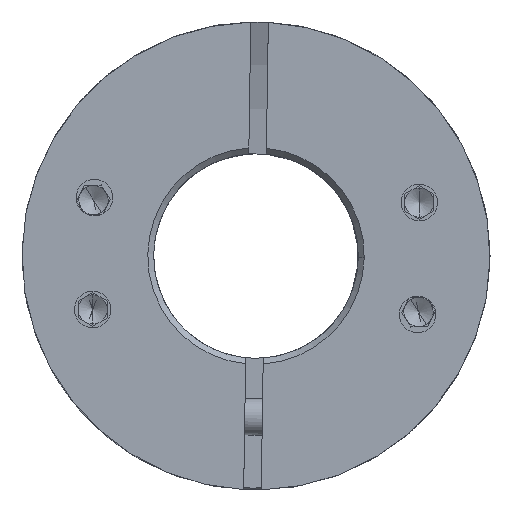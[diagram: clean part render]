
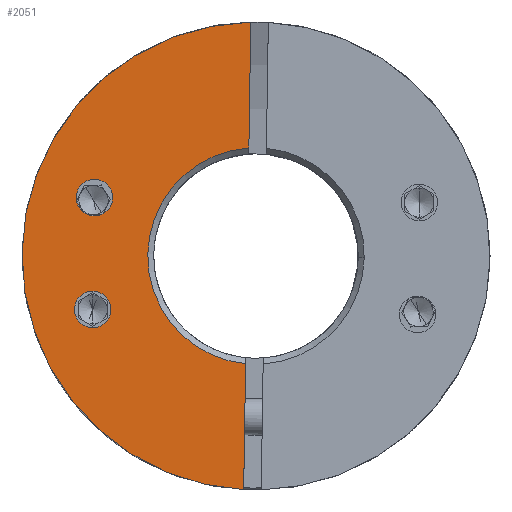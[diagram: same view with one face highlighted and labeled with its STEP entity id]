
A CAD part, front view. The second image highlights one B-rep face of the part: STEP entity #2051.
In plain terms, the highlighted planar face has unit normal (0, -1, 0).
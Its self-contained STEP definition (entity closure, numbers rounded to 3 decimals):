
#795 = DIRECTION ( 'NONE',  ( 0., -1., 0. ) ) ;
#888 = DIRECTION ( 'NONE',  ( 0., 1., 0. ) ) ;
#1651 = VERTEX_POINT ( 'NONE', #19426 ) ;
#1946 = ORIENTED_EDGE ( 'NONE', *, *, #21174, .T. ) ;
#1968 = AXIS2_PLACEMENT_3D ( 'NONE', #4872, #12221, #14330 ) ;
#2022 = ORIENTED_EDGE ( 'NONE', *, *, #21114, .F. ) ;
#2051 = ADVANCED_FACE ( 'NONE', ( #14132, #8588, #16477 ), #17653, .T. ) ;
#2538 = VECTOR ( 'NONE', #19247, 1000. ) ;
#2702 = CIRCLE ( 'NONE', #1968, 16. ) ;
#3126 = EDGE_LOOP ( 'NONE', ( #22249, #23533 ) ) ;
#3396 = CARTESIAN_POINT ( 'NONE',  ( -69.095, -19.411, -3.675 ) ) ;
#3413 = EDGE_LOOP ( 'NONE', ( #6623, #1946 ) ) ;
#3428 = VERTEX_POINT ( 'NONE', #24211 ) ;
#3859 = AXIS2_PLACEMENT_3D ( 'NONE', #20124, #23563, #21769 ) ;
#4462 = DIRECTION ( 'NONE',  ( 0., 1., 0. ) ) ;
#4472 = ORIENTED_EDGE ( 'NONE', *, *, #18767, .F. ) ;
#4531 = DIRECTION ( 'NONE',  ( 1., 0., -0.015 ) ) ;
#4542 = DIRECTION ( 'NONE',  ( 1., 0., -0.015 ) ) ;
#4687 = CARTESIAN_POINT ( 'NONE',  ( -59.178, -19.411, 0. ) ) ;
#4872 = CARTESIAN_POINT ( 'NONE',  ( -59.178, -19.411, 0. ) ) ;
#5115 = AXIS2_PLACEMENT_3D ( 'NONE', #14102, #4462, #4542 ) ;
#5128 = VERTEX_POINT ( 'NONE', #16862 ) ;
#5300 = CARTESIAN_POINT ( 'NONE',  ( -70.229, -19.411, 3.994 ) ) ;
#5797 = AXIS2_PLACEMENT_3D ( 'NONE', #10207, #23160, #8559 ) ;
#6623 = ORIENTED_EDGE ( 'NONE', *, *, #16795, .T. ) ;
#6879 = CARTESIAN_POINT ( 'NONE',  ( -59.666, -19.411, 7.384 ) ) ;
#8559 = DIRECTION ( 'NONE',  ( 1., 0., -0.015 ) ) ;
#8588 = FACE_BOUND ( 'NONE', #3126, .T. ) ;
#8678 = LINE ( 'NONE', #23646, #2538 ) ;
#8884 = CARTESIAN_POINT ( 'NONE',  ( -59.535, -19.411, 15.996 ) ) ;
#8921 = ORIENTED_EDGE ( 'NONE', *, *, #21556, .T. ) ;
#9392 = DIRECTION ( 'NONE',  ( 0., 1., 0. ) ) ;
#9468 = CARTESIAN_POINT ( 'NONE',  ( -59.89, -19.411, -7.366 ) ) ;
#9751 = CARTESIAN_POINT ( 'NONE',  ( -60.021, -19.411, -15.978 ) ) ;
#9836 = EDGE_CURVE ( 'NONE', #13410, #22480, #18525, .T. ) ;
#10207 = CARTESIAN_POINT ( 'NONE',  ( -70.345, -19.411, -3.656 ) ) ;
#11094 = DIRECTION ( 'NONE',  ( 1., 0., -0.015 ) ) ;
#11622 = VERTEX_POINT ( 'NONE', #23959 ) ;
#12221 = DIRECTION ( 'NONE',  ( 0., -1., 0. ) ) ;
#12639 = AXIS2_PLACEMENT_3D ( 'NONE', #4687, #795, #4531 ) ;
#13410 = VERTEX_POINT ( 'NONE', #9468 ) ;
#13682 = CARTESIAN_POINT ( 'NONE',  ( -59.687, -19.411, 6.008 ) ) ;
#13711 = DIRECTION ( 'NONE',  ( 1., 0., -0.015 ) ) ;
#13935 = CIRCLE ( 'NONE', #15118, 1.25 ) ;
#14102 = CARTESIAN_POINT ( 'NONE',  ( -70.229, -19.411, 3.994 ) ) ;
#14132 = FACE_OUTER_BOUND ( 'NONE', #15335, .T. ) ;
#14330 = DIRECTION ( 'NONE',  ( 1., 0., -0.015 ) ) ;
#14467 = EDGE_CURVE ( 'NONE', #5128, #3428, #13935, .T. ) ;
#14789 = EDGE_CURVE ( 'NONE', #3428, #5128, #23859, .T. ) ;
#14843 = CARTESIAN_POINT ( 'NONE',  ( -70.345, -19.411, -3.656 ) ) ;
#14931 = EDGE_CURVE ( 'NONE', #11622, #18657, #23791, .T. ) ;
#15118 = AXIS2_PLACEMENT_3D ( 'NONE', #5300, #18507, #16653 ) ;
#15335 = EDGE_LOOP ( 'NONE', ( #4472, #20389, #2022, #8921, #18457 ) ) ;
#15572 = CARTESIAN_POINT ( 'NONE',  ( -59.178, -19.411, 0. ) ) ;
#15579 = CIRCLE ( 'NONE', #21651, 1.25 ) ;
#16477 = FACE_BOUND ( 'NONE', #3413, .T. ) ;
#16653 = DIRECTION ( 'NONE',  ( 1., 0., -0.015 ) ) ;
#16795 = EDGE_CURVE ( 'NONE', #1651, #19814, #17474, .T. ) ;
#16862 = CARTESIAN_POINT ( 'NONE',  ( -68.979, -19.411, 3.975 ) ) ;
#17474 = CIRCLE ( 'NONE', #5797, 1.25 ) ;
#17653 = PLANE ( 'NONE',  #12639 ) ;
#18457 = ORIENTED_EDGE ( 'NONE', *, *, #14931, .T. ) ;
#18507 = DIRECTION ( 'NONE',  ( 0., 1., 0. ) ) ;
#18525 = CIRCLE ( 'NONE', #18740, 7.4 ) ;
#18657 = VERTEX_POINT ( 'NONE', #9751 ) ;
#18740 = AXIS2_PLACEMENT_3D ( 'NONE', #15572, #888, #13711 ) ;
#18767 = EDGE_CURVE ( 'NONE', #13410, #18657, #8678, .T. ) ;
#19051 = VECTOR ( 'NONE', #19769, 1000. ) ;
#19247 = DIRECTION ( 'NONE',  ( -0.015, 0., -1. ) ) ;
#19426 = CARTESIAN_POINT ( 'NONE',  ( -71.595, -19.411, -3.637 ) ) ;
#19648 = LINE ( 'NONE', #13682, #19051 ) ;
#19769 = DIRECTION ( 'NONE',  ( -0.015, 0., -1. ) ) ;
#19814 = VERTEX_POINT ( 'NONE', #3396 ) ;
#20124 = CARTESIAN_POINT ( 'NONE',  ( -59.178, -19.411, 0. ) ) ;
#20389 = ORIENTED_EDGE ( 'NONE', *, *, #9836, .T. ) ;
#21114 = EDGE_CURVE ( 'NONE', #21848, #22480, #19648, .T. ) ;
#21174 = EDGE_CURVE ( 'NONE', #19814, #1651, #15579, .T. ) ;
#21556 = EDGE_CURVE ( 'NONE', #21848, #11622, #2702, .T. ) ;
#21651 = AXIS2_PLACEMENT_3D ( 'NONE', #14843, #9392, #11094 ) ;
#21769 = DIRECTION ( 'NONE',  ( 1., 0., -0.015 ) ) ;
#21848 = VERTEX_POINT ( 'NONE', #8884 ) ;
#22249 = ORIENTED_EDGE ( 'NONE', *, *, #14789, .T. ) ;
#22480 = VERTEX_POINT ( 'NONE', #6879 ) ;
#23160 = DIRECTION ( 'NONE',  ( 0., 1., 0. ) ) ;
#23533 = ORIENTED_EDGE ( 'NONE', *, *, #14467, .T. ) ;
#23563 = DIRECTION ( 'NONE',  ( 0., -1., 0. ) ) ;
#23646 = CARTESIAN_POINT ( 'NONE',  ( -59.687, -19.411, 6.008 ) ) ;
#23791 = CIRCLE ( 'NONE', #3859, 16. ) ;
#23859 = CIRCLE ( 'NONE', #5115, 1.25 ) ;
#23959 = CARTESIAN_POINT ( 'NONE',  ( -75.176, -19.411, 0.243 ) ) ;
#24211 = CARTESIAN_POINT ( 'NONE',  ( -71.479, -19.411, 4.013 ) ) ;
